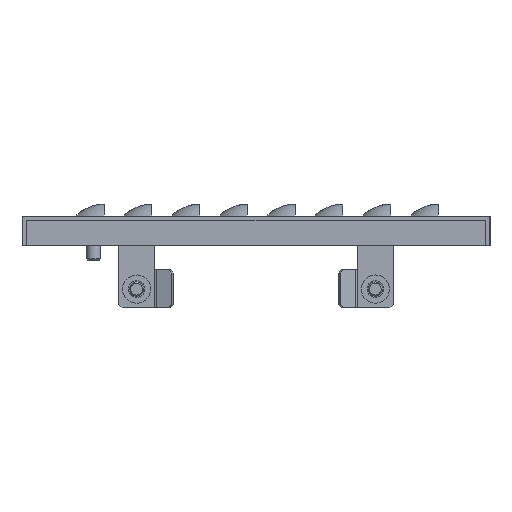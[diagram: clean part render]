
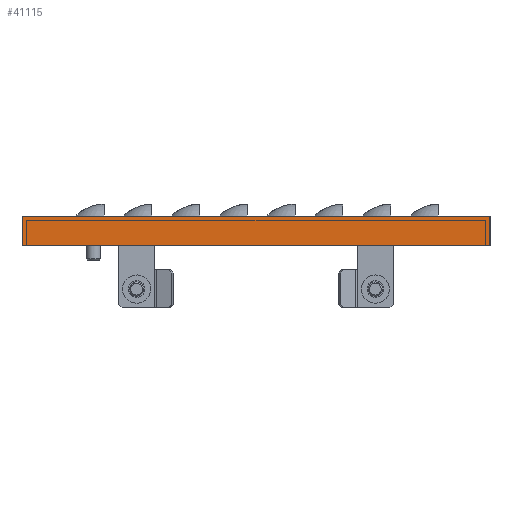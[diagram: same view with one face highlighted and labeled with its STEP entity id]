
A CAD part, left-side view. The second image highlights one B-rep face of the part: STEP entity #41115.
In plain terms, the highlighted planar face has unit normal (-1, 0, 0).
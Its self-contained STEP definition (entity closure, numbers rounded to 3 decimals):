
#2152 = ORIENTED_EDGE ( 'NONE', *, *, #11535, .T. ) ;
#2919 = VERTEX_POINT ( 'NONE', #43224 ) ;
#3307 = EDGE_CURVE ( 'NONE', #8813, #41447, #24453, .T. ) ;
#5778 = LINE ( 'NONE', #44143, #23908 ) ;
#6649 = DIRECTION ( 'NONE',  ( 1., 0., 0. ) ) ;
#8813 = VERTEX_POINT ( 'NONE', #17093 ) ;
#9082 = CARTESIAN_POINT ( 'NONE',  ( -795., 0., 2.928 ) ) ;
#9830 = DIRECTION ( 'NONE',  ( 0., 1., 0. ) ) ;
#11330 = LINE ( 'NONE', #20413, #22251 ) ;
#11535 = EDGE_CURVE ( 'NONE', #2919, #8813, #5778, .T. ) ;
#15250 = VECTOR ( 'NONE', #15413, 1000. ) ;
#15413 = DIRECTION ( 'NONE',  ( 0., 0., -1. ) ) ;
#16403 = CARTESIAN_POINT ( 'NONE',  ( -795., -98., -2. ) ) ;
#17011 = AXIS2_PLACEMENT_3D ( 'NONE', #16403, #6649, #30816 ) ;
#17093 = CARTESIAN_POINT ( 'NONE',  ( -795., 0., 0. ) ) ;
#19820 = VECTOR ( 'NONE', #36488, 1000. ) ;
#20413 = CARTESIAN_POINT ( 'NONE',  ( -795., -98., -12.5 ) ) ;
#21905 = EDGE_LOOP ( 'NONE', ( #2152, #28589, #34335, #38684 ) ) ;
#22251 = VECTOR ( 'NONE', #37576, 1000. ) ;
#22457 = CARTESIAN_POINT ( 'NONE',  ( -795., 0., -12.5 ) ) ;
#23908 = VECTOR ( 'NONE', #9830, 1000. ) ;
#24453 = LINE ( 'NONE', #9082, #15250 ) ;
#25074 = EDGE_CURVE ( 'NONE', #41447, #40606, #11330, .T. ) ;
#25552 = CARTESIAN_POINT ( 'NONE',  ( -795., -196., -12.5 ) ) ;
#25657 = LINE ( 'NONE', #42810, #19820 ) ;
#28557 = EDGE_CURVE ( 'NONE', #2919, #40606, #25657, .T. ) ;
#28589 = ORIENTED_EDGE ( 'NONE', *, *, #3307, .T. ) ;
#30816 = DIRECTION ( 'NONE',  ( 0., 1., 0. ) ) ;
#34335 = ORIENTED_EDGE ( 'NONE', *, *, #25074, .T. ) ;
#36488 = DIRECTION ( 'NONE',  ( 0., 0., -1. ) ) ;
#37576 = DIRECTION ( 'NONE',  ( 0., -1., 0. ) ) ;
#37597 = PLANE ( 'NONE',  #17011 ) ;
#38684 = ORIENTED_EDGE ( 'NONE', *, *, #28557, .F. ) ;
#40606 = VERTEX_POINT ( 'NONE', #25552 ) ;
#41115 = ADVANCED_FACE ( 'NONE', ( #44368 ), #37597, .F. ) ;
#41447 = VERTEX_POINT ( 'NONE', #22457 ) ;
#42810 = CARTESIAN_POINT ( 'NONE',  ( -795., -196., 2.928 ) ) ;
#43224 = CARTESIAN_POINT ( 'NONE',  ( -795., -196., 0. ) ) ;
#44143 = CARTESIAN_POINT ( 'NONE',  ( -795., -98., 0. ) ) ;
#44368 = FACE_OUTER_BOUND ( 'NONE', #21905, .T. ) ;
